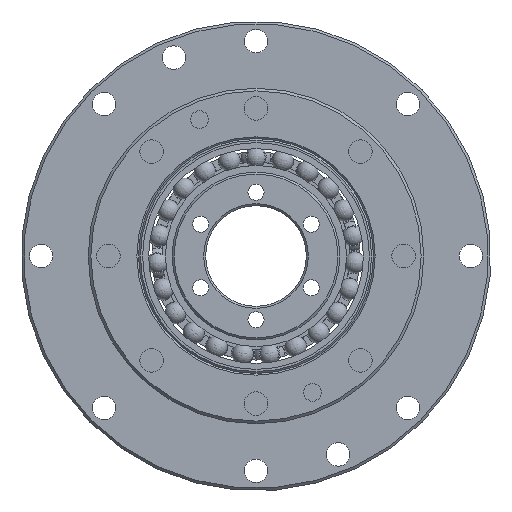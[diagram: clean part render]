
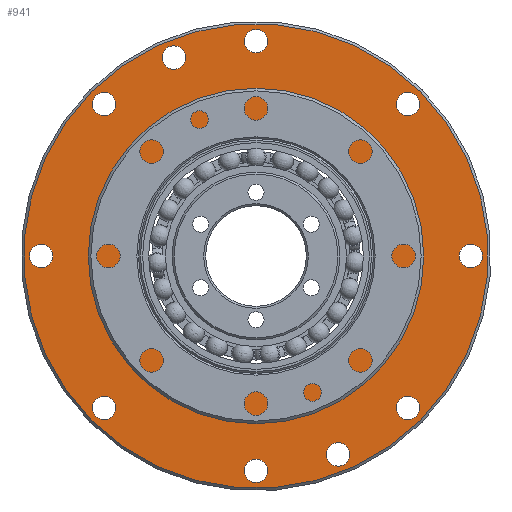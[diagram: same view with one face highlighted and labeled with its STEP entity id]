
A CAD part, left-side view. The second image highlights one B-rep face of the part: STEP entity #941.
In plain terms, the highlighted planar face has unit normal (-1, 0, 0).
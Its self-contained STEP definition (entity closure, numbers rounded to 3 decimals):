
#941=ADVANCED_FACE('',(#1272,#1273,#1274,#1275,#1276,#1277,#1278,#1279,
#1280,#1281,#1282,#1283),#1174,.T.);
#1174=PLANE('',#4233);
#1272=FACE_BOUND('',#1521,.T.);
#1273=FACE_BOUND('',#1522,.T.);
#1274=FACE_BOUND('',#1523,.T.);
#1275=FACE_BOUND('',#1524,.T.);
#1276=FACE_BOUND('',#1525,.T.);
#1277=FACE_BOUND('',#1526,.T.);
#1278=FACE_BOUND('',#1527,.T.);
#1279=FACE_BOUND('',#1528,.T.);
#1280=FACE_BOUND('',#1529,.T.);
#1281=FACE_BOUND('',#1530,.T.);
#1282=FACE_BOUND('',#1531,.T.);
#1283=FACE_BOUND('',#1532,.T.);
#1521=EDGE_LOOP('',(#1885));
#1522=EDGE_LOOP('',(#1886));
#1523=EDGE_LOOP('',(#1887));
#1524=EDGE_LOOP('',(#1888));
#1525=EDGE_LOOP('',(#1889));
#1526=EDGE_LOOP('',(#1890));
#1527=EDGE_LOOP('',(#1891));
#1528=EDGE_LOOP('',(#1892));
#1529=EDGE_LOOP('',(#1893));
#1530=EDGE_LOOP('',(#1894));
#1531=EDGE_LOOP('',(#1895));
#1532=EDGE_LOOP('',(#1896));
#1885=ORIENTED_EDGE('',*,*,#3346,.T.);
#1886=ORIENTED_EDGE('',*,*,#3318,.F.);
#1887=ORIENTED_EDGE('',*,*,#3320,.F.);
#1888=ORIENTED_EDGE('',*,*,#3322,.F.);
#1889=ORIENTED_EDGE('',*,*,#3324,.F.);
#1890=ORIENTED_EDGE('',*,*,#3326,.F.);
#1891=ORIENTED_EDGE('',*,*,#3328,.F.);
#1892=ORIENTED_EDGE('',*,*,#3330,.F.);
#1893=ORIENTED_EDGE('',*,*,#3332,.F.);
#1894=ORIENTED_EDGE('',*,*,#3334,.F.);
#1895=ORIENTED_EDGE('',*,*,#3336,.F.);
#1896=ORIENTED_EDGE('',*,*,#3338,.T.);
#2907=VERTEX_POINT('',#5766);
#2909=VERTEX_POINT('',#5771);
#2911=VERTEX_POINT('',#5776);
#2913=VERTEX_POINT('',#5781);
#2915=VERTEX_POINT('',#5786);
#2917=VERTEX_POINT('',#5791);
#2919=VERTEX_POINT('',#5796);
#2921=VERTEX_POINT('',#5801);
#2923=VERTEX_POINT('',#5806);
#2925=VERTEX_POINT('',#5811);
#2927=VERTEX_POINT('',#5816);
#2935=VERTEX_POINT('',#5836);
#3318=EDGE_CURVE('',#2907,#2907,#3856,.T.);
#3320=EDGE_CURVE('',#2909,#2909,#3858,.T.);
#3322=EDGE_CURVE('',#2911,#2911,#3860,.T.);
#3324=EDGE_CURVE('',#2913,#2913,#3862,.T.);
#3326=EDGE_CURVE('',#2915,#2915,#3864,.T.);
#3328=EDGE_CURVE('',#2917,#2917,#3866,.T.);
#3330=EDGE_CURVE('',#2919,#2919,#3868,.T.);
#3332=EDGE_CURVE('',#2921,#2921,#3870,.T.);
#3334=EDGE_CURVE('',#2923,#2923,#3872,.T.);
#3336=EDGE_CURVE('',#2925,#2925,#3874,.T.);
#3338=EDGE_CURVE('',#2927,#2927,#3876,.T.);
#3346=EDGE_CURVE('',#2935,#2935,#3884,.T.);
#3856=CIRCLE('',#4189,1.75);
#3858=CIRCLE('',#4192,1.75);
#3860=CIRCLE('',#4195,1.75);
#3862=CIRCLE('',#4198,1.75);
#3864=CIRCLE('',#4201,1.75);
#3866=CIRCLE('',#4204,1.75);
#3868=CIRCLE('',#4207,1.75);
#3870=CIRCLE('',#4210,1.75);
#3872=CIRCLE('',#4213,1.75);
#3874=CIRCLE('',#4216,1.75);
#3876=CIRCLE('',#4219,34.6);
#3884=CIRCLE('',#4231,18.013);
#4189=AXIS2_PLACEMENT_3D('',#5765,#4696,#4697);
#4192=AXIS2_PLACEMENT_3D('',#5770,#4702,#4703);
#4195=AXIS2_PLACEMENT_3D('',#5775,#4708,#4709);
#4198=AXIS2_PLACEMENT_3D('',#5780,#4714,#4715);
#4201=AXIS2_PLACEMENT_3D('',#5785,#4720,#4721);
#4204=AXIS2_PLACEMENT_3D('',#5790,#4726,#4727);
#4207=AXIS2_PLACEMENT_3D('',#5795,#4732,#4733);
#4210=AXIS2_PLACEMENT_3D('',#5800,#4738,#4739);
#4213=AXIS2_PLACEMENT_3D('',#5805,#4744,#4745);
#4216=AXIS2_PLACEMENT_3D('',#5810,#4750,#4751);
#4219=AXIS2_PLACEMENT_3D('',#5815,#4756,#4757);
#4231=AXIS2_PLACEMENT_3D('',#5835,#4780,#4781);
#4233=AXIS2_PLACEMENT_3D('',#5838,#4784,#4785);
#4696=DIRECTION('',(-1.,0.,0.));
#4697=DIRECTION('',(0.,-0.707,-0.707));
#4702=DIRECTION('',(-1.,0.,0.));
#4703=DIRECTION('',(0.,-0.707,-0.707));
#4708=DIRECTION('',(-1.,0.,0.));
#4709=DIRECTION('',(0.,-0.707,-0.707));
#4714=DIRECTION('',(-1.,0.,0.));
#4715=DIRECTION('',(0.,-0.707,-0.707));
#4720=DIRECTION('',(-1.,0.,0.));
#4721=DIRECTION('',(0.,-0.707,-0.707));
#4726=DIRECTION('',(-1.,0.,0.));
#4727=DIRECTION('',(0.,-0.707,-0.707));
#4732=DIRECTION('',(-1.,0.,0.));
#4733=DIRECTION('',(0.,-0.707,-0.707));
#4738=DIRECTION('',(-1.,0.,0.));
#4739=DIRECTION('',(0.,-0.707,-0.707));
#4744=DIRECTION('',(-1.,0.,0.));
#4745=DIRECTION('',(0.,-0.707,-0.707));
#4750=DIRECTION('',(-1.,0.,0.));
#4751=DIRECTION('',(0.,-0.707,-0.707));
#4756=DIRECTION('',(-1.,0.,0.));
#4757=DIRECTION('',(0.,-0.707,-0.707));
#4780=DIRECTION('',(1.,0.,0.));
#4781=DIRECTION('',(0.,0.,-1.));
#4784=DIRECTION('',(-1.,0.,0.));
#4785=DIRECTION('',(0.,-0.707,-0.707));
#5765=CARTESIAN_POINT('',(21.3,-12.246,-29.564));
#5766=CARTESIAN_POINT('',(21.3,-13.483,-30.802));
#5770=CARTESIAN_POINT('',(21.3,12.246,29.564));
#5771=CARTESIAN_POINT('',(21.3,11.008,28.327));
#5775=CARTESIAN_POINT('',(21.3,-32.,0.));
#5776=CARTESIAN_POINT('',(21.3,-33.237,-1.237));
#5780=CARTESIAN_POINT('',(21.3,-22.627,-22.627));
#5781=CARTESIAN_POINT('',(21.3,-23.865,-23.865));
#5785=CARTESIAN_POINT('',(21.3,0.,-32.));
#5786=CARTESIAN_POINT('',(21.3,-1.237,-33.237));
#5790=CARTESIAN_POINT('',(21.3,22.627,-22.627));
#5791=CARTESIAN_POINT('',(21.3,21.39,-23.865));
#5795=CARTESIAN_POINT('',(21.3,32.,0.));
#5796=CARTESIAN_POINT('',(21.3,30.763,-1.237));
#5800=CARTESIAN_POINT('',(21.3,22.627,22.627));
#5801=CARTESIAN_POINT('',(21.3,21.39,21.39));
#5805=CARTESIAN_POINT('',(21.3,0.,32.));
#5806=CARTESIAN_POINT('',(21.3,-1.237,30.763));
#5810=CARTESIAN_POINT('',(21.3,-22.627,22.627));
#5811=CARTESIAN_POINT('',(21.3,-23.865,21.39));
#5815=CARTESIAN_POINT('',(21.3,0.,0.));
#5816=CARTESIAN_POINT('',(21.3,-24.466,-24.466));
#5835=CARTESIAN_POINT('',(21.3,0.,0.));
#5836=CARTESIAN_POINT('',(21.3,0.,-18.014));
#5838=CARTESIAN_POINT('',(21.3,-24.749,24.749));
